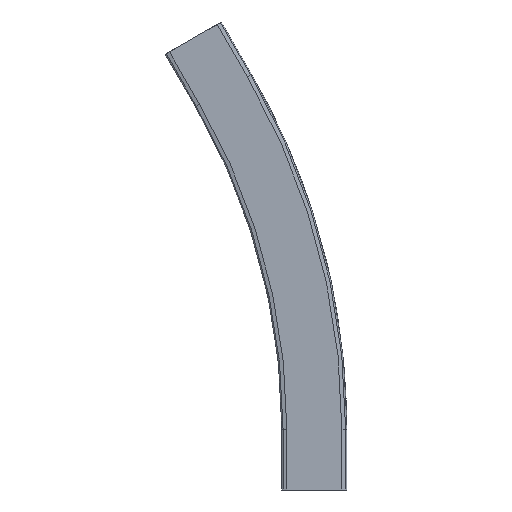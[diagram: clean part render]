
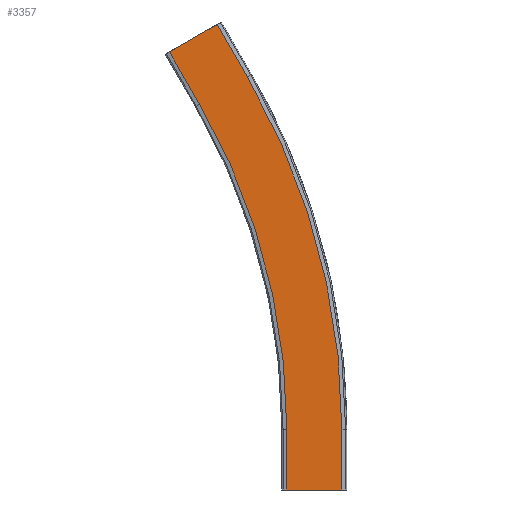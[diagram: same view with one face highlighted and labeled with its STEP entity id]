
A CAD part, front view. The second image highlights one B-rep face of the part: STEP entity #3357.
In plain terms, the highlighted planar face has unit normal (0, -1, 0).
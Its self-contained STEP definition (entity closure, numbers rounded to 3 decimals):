
#349=FACE_OUTER_BOUND('',#529,.T.);
#529=EDGE_LOOP('',(#3063,#3064,#3065,#3066,#3067,#3068,#3069,#3070));
#619=CIRCLE('',#3610,936.5);
#622=CIRCLE('',#3616,863.5);
#940=LINE('',#5973,#1286);
#945=LINE('',#5982,#1291);
#947=LINE('',#5987,#1293);
#962=LINE('',#6027,#1308);
#967=LINE('',#6038,#1313);
#968=LINE('',#6040,#1314);
#1286=VECTOR('',#4383,10.);
#1291=VECTOR('',#4390,10.);
#1293=VECTOR('',#4394,10.);
#1308=VECTOR('',#4435,10.);
#1313=VECTOR('',#4448,10.);
#1314=VECTOR('',#4451,10.);
#1610=VERTEX_POINT('',#5970);
#1611=VERTEX_POINT('',#5972);
#1614=VERTEX_POINT('',#5979);
#1615=VERTEX_POINT('',#5984);
#1625=VERTEX_POINT('',#6010);
#1627=VERTEX_POINT('',#6020);
#1628=VERTEX_POINT('',#6025);
#1630=VERTEX_POINT('',#6036);
#2078=EDGE_CURVE('',#1611,#1610,#940,.T.);
#2083=EDGE_CURVE('',#1611,#1614,#945,.T.);
#2085=EDGE_CURVE('',#1610,#1615,#947,.T.);
#2098=EDGE_CURVE('',#1615,#1625,#619,.T.);
#2104=EDGE_CURVE('',#1614,#1627,#622,.T.);
#2106=EDGE_CURVE('',#1625,#1628,#962,.T.);
#2111=EDGE_CURVE('',#1627,#1630,#967,.T.);
#2112=EDGE_CURVE('',#1628,#1630,#968,.T.);
#3063=ORIENTED_EDGE('',*,*,#2112,.T.);
#3064=ORIENTED_EDGE('',*,*,#2111,.F.);
#3065=ORIENTED_EDGE('',*,*,#2104,.F.);
#3066=ORIENTED_EDGE('',*,*,#2083,.F.);
#3067=ORIENTED_EDGE('',*,*,#2078,.T.);
#3068=ORIENTED_EDGE('',*,*,#2085,.T.);
#3069=ORIENTED_EDGE('',*,*,#2098,.T.);
#3070=ORIENTED_EDGE('',*,*,#2106,.T.);
#3186=PLANE('',#3622);
#3357=ADVANCED_FACE('',(#349),#3186,.T.);
#3610=AXIS2_PLACEMENT_3D('',#6012,#4415,#4416);
#3616=AXIS2_PLACEMENT_3D('',#6023,#4430,#4431);
#3622=AXIS2_PLACEMENT_3D('',#6039,#4449,#4450);
#4383=DIRECTION('',(1.,0.,0.));
#4390=DIRECTION('',(0.,0.,1.));
#4394=DIRECTION('',(0.,0.,1.));
#4415=DIRECTION('center_axis',(0.,-1.,0.));
#4416=DIRECTION('ref_axis',(1.,0.,0.));
#4430=DIRECTION('center_axis',(0.,-1.,0.));
#4431=DIRECTION('ref_axis',(1.,0.,0.));
#4435=DIRECTION('',(-0.5,0.,0.866));
#4448=DIRECTION('',(-0.5,0.,0.866));
#4449=DIRECTION('center_axis',(0.,-1.,0.));
#4450=DIRECTION('ref_axis',(0.5,0.,-0.866));
#4451=DIRECTION('',(-0.866,0.,-0.5));
#5970=CARTESIAN_POINT('',(36.5,-11.,0.));
#5972=CARTESIAN_POINT('',(-36.5,-11.,0.));
#5973=CARTESIAN_POINT('',(-36.5,-11.,0.));
#5979=CARTESIAN_POINT('',(-36.5,-11.,80.));
#5982=CARTESIAN_POINT('',(-36.5,-11.,0.));
#5984=CARTESIAN_POINT('',(36.5,-11.,80.));
#5987=CARTESIAN_POINT('',(36.5,-11.,0.));
#6010=CARTESIAN_POINT('',(-88.967,-11.,548.25));
#6012=CARTESIAN_POINT('Origin',(-900.,-11.,80.));
#6020=CARTESIAN_POINT('',(-152.187,-11.,511.75));
#6023=CARTESIAN_POINT('Origin',(-900.,-11.,80.));
#6025=CARTESIAN_POINT('',(-128.967,-11.,617.532));
#6027=CARTESIAN_POINT('',(186.652,-11.,70.863));
#6036=CARTESIAN_POINT('',(-192.187,-11.,581.032));
#6038=CARTESIAN_POINT('',(123.432,-11.,34.363));
#6039=CARTESIAN_POINT('Origin',(186.652,-11.,70.863));
#6040=CARTESIAN_POINT('',(-143.473,-11.,609.157));
